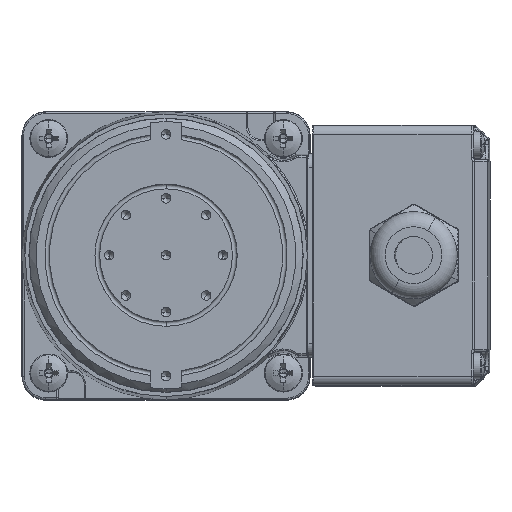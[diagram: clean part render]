
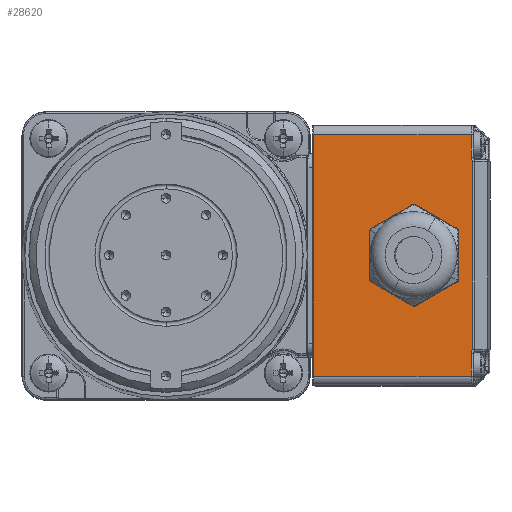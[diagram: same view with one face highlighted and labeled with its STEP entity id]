
A CAD part, top view. The second image highlights one B-rep face of the part: STEP entity #28620.
In plain terms, the highlighted planar face has unit normal (-0.009, 0, 1) as drawn and (0, 1, -0.008) by its records, which use the part's own axes.
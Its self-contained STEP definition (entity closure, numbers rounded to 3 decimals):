
#260 = CARTESIAN_POINT ( 'NONE',  ( -20.676, 51.11, 74.029 ) ) ;
#425 = CARTESIAN_POINT ( 'NONE',  ( -20.614, 51.11, 74.031 ) ) ;
#551 = CARTESIAN_POINT ( 'NONE',  ( 19.835, 51.113, 74.321 ) ) ;
#585 = CARTESIAN_POINT ( 'NONE',  ( -20.047, 51.112, 74.208 ) ) ;
#817 = LINE ( 'NONE', #6378, #12002 ) ;
#923 = CARTESIAN_POINT ( 'NONE',  ( -19.859, 51.113, 74.313 ) ) ;
#1030 = CARTESIAN_POINT ( 'NONE',  ( 0., 50.944, 53.779 ) ) ;
#1316 = CIRCLE ( 'NONE', #22391, 8.25 ) ;
#1979 = EDGE_CURVE ( 'NONE', #33081, #30453, #19196, .T. ) ;
#2938 = VECTOR ( 'NONE', #9091, 1000. ) ;
#3040 = CARTESIAN_POINT ( 'NONE',  ( -19.847, 51.113, 74.318 ) ) ;
#3169 = CARTESIAN_POINT ( 'NONE',  ( 20.107, 51.11, 74.175 ) ) ;
#3186 = LINE ( 'NONE', #27299, #2938 ) ;
#3414 = CARTESIAN_POINT ( 'NONE',  ( -20.701, 51.11, 74.029 ) ) ;
#3542 = VERTEX_POINT ( 'NONE', #29374 ) ;
#3544 = EDGE_CURVE ( 'NONE', #13116, #29733, #33682, .T. ) ;
#3546 = CARTESIAN_POINT ( 'NONE',  ( 0., 51.012, 62.029 ) ) ;
#4795 = EDGE_CURVE ( 'NONE', #29733, #16204, #29015, .T. ) ;
#4810 = ORIENTED_EDGE ( 'NONE', *, *, #9166, .T. ) ;
#5808 = CARTESIAN_POINT ( 'NONE',  ( -20.008, 51.112, 74.229 ) ) ;
#6378 = CARTESIAN_POINT ( 'NONE',  ( -25.5, 51.11, 74.029 ) ) ;
#6863 = ORIENTED_EDGE ( 'NONE', *, *, #24536, .F. ) ;
#7210 = DIRECTION ( 'NONE',  ( -1., 0., 0. ) ) ;
#7592 = EDGE_LOOP ( 'NONE', ( #4810, #28961, #27929, #7624, #31006, #18308, #17505, #6863 ) ) ;
#7618 = VERTEX_POINT ( 'NONE', #14731 ) ;
#7624 = ORIENTED_EDGE ( 'NONE', *, *, #14122, .F. ) ;
#7972 = PLANE ( 'NONE',  #16071 ) ;
#8250 = CARTESIAN_POINT ( 'NONE',  ( -20.701, 51.11, 74.029 ) ) ;
#8307 = EDGE_CURVE ( 'NONE', #3542, #30532, #3186, .T. ) ;
#8559 = CARTESIAN_POINT ( 'NONE',  ( 20.543, 51.109, 74.037 ) ) ;
#8753 = CARTESIAN_POINT ( 'NONE',  ( -19.875, 51.113, 74.305 ) ) ;
#8918 = DIRECTION ( 'NONE',  ( 0., 1., -0.008 ) ) ;
#9091 = DIRECTION ( 'NONE',  ( 1., 0., 0. ) ) ;
#9166 = EDGE_CURVE ( 'NONE', #12945, #30532, #30302, .T. ) ;
#9180 = VECTOR ( 'NONE', #11743, 1000. ) ;
#9714 = CARTESIAN_POINT ( 'NONE',  ( 25.5, 50.837, 40.73 ) ) ;
#10098 = CARTESIAN_POINT ( 'NONE',  ( 19.835, 51.113, 74.321 ) ) ;
#10612 = DIRECTION ( 'NONE',  ( -1., 0., 0. ) ) ;
#11188 = CARTESIAN_POINT ( 'NONE',  ( -20.339, 51.111, 74.083 ) ) ;
#11743 = DIRECTION ( 'NONE',  ( -1., 0., 0. ) ) ;
#11983 = AXIS2_PLACEMENT_3D ( 'NONE', #3546, #8918, #22111 ) ;
#12002 = VECTOR ( 'NONE', #14539, 1000. ) ;
#12421 = EDGE_CURVE ( 'NONE', #30453, #33081, #1316, .T. ) ;
#12722 = CARTESIAN_POINT ( 'NONE',  ( -19.835, 51.113, 74.321 ) ) ;
#12836 = ORIENTED_EDGE ( 'NONE', *, *, #12421, .F. ) ;
#12945 = VERTEX_POINT ( 'NONE', #34214 ) ;
#13116 = VERTEX_POINT ( 'NONE', #18961 ) ;
#13461 = CARTESIAN_POINT ( 'NONE',  ( -20.264, 51.111, 74.108 ) ) ;
#13645 = CARTESIAN_POINT ( 'NONE',  ( -19.918, 51.112, 74.281 ) ) ;
#13775 = CARTESIAN_POINT ( 'NONE',  ( 19.971, 51.111, 74.249 ) ) ;
#14122 = EDGE_CURVE ( 'NONE', #7618, #31529, #27178, .T. ) ;
#14539 = DIRECTION ( 'NONE',  ( 0., -0.008, -1. ) ) ;
#14551 = CARTESIAN_POINT ( 'NONE',  ( 19.835, 51.113, 74.321 ) ) ;
#14731 = CARTESIAN_POINT ( 'NONE',  ( -20.701, 51.11, 74.029 ) ) ;
#16017 = CARTESIAN_POINT ( 'NONE',  ( 20.701, 51.11, 74.029 ) ) ;
#16071 = AXIS2_PLACEMENT_3D ( 'NONE', #18555, #24770, #27376 ) ;
#16204 = VERTEX_POINT ( 'NONE', #12722 ) ;
#16921 = EDGE_CURVE ( 'NONE', #16204, #7618, #26016, .T. ) ;
#17091 = CARTESIAN_POINT ( 'NONE',  ( 25.5, 51.11, 74.029 ) ) ;
#17505 = ORIENTED_EDGE ( 'NONE', *, *, #3544, .F. ) ;
#18308 = ORIENTED_EDGE ( 'NONE', *, *, #4795, .F. ) ;
#18555 = CARTESIAN_POINT ( 'NONE',  ( 27.5, 50.835, 40.53 ) ) ;
#18837 = CARTESIAN_POINT ( 'NONE',  ( -19.895, 51.112, 74.294 ) ) ;
#18961 = CARTESIAN_POINT ( 'NONE',  ( 20.701, 51.11, 74.029 ) ) ;
#18971 = CARTESIAN_POINT ( 'NONE',  ( 20.319, 51.109, 74.087 ) ) ;
#19196 = CIRCLE ( 'NONE', #11983, 8.25 ) ;
#19507 = CARTESIAN_POINT ( 'NONE',  ( -20.091, 51.112, 74.184 ) ) ;
#20836 = CARTESIAN_POINT ( 'NONE',  ( 0., 51.012, 62.029 ) ) ;
#21054 = CARTESIAN_POINT ( 'NONE',  ( 20.392, 51.109, 74.064 ) ) ;
#21143 = FACE_OUTER_BOUND ( 'NONE', #7592, .T. ) ;
#21571 = CARTESIAN_POINT ( 'NONE',  ( 20.622, 51.109, 74.032 ) ) ;
#22111 = DIRECTION ( 'NONE',  ( 0., 0.008, 1. ) ) ;
#22391 = AXIS2_PLACEMENT_3D ( 'NONE', #20836, #28099, #26022 ) ;
#23186 = LINE ( 'NONE', #33586, #26272 ) ;
#23663 = CARTESIAN_POINT ( 'NONE',  ( 19.905, 51.111, 74.292 ) ) ;
#24045 = CARTESIAN_POINT ( 'NONE',  ( -20.521, 51.11, 74.041 ) ) ;
#24216 = CARTESIAN_POINT ( 'NONE',  ( -20.425, 51.111, 74.06 ) ) ;
#24377 = CARTESIAN_POINT ( 'NONE',  ( -19.835, 51.113, 74.321 ) ) ;
#24536 = EDGE_CURVE ( 'NONE', #12945, #13116, #23186, .T. ) ;
#24545 = CARTESIAN_POINT ( 'NONE',  ( -20.198, 51.111, 74.134 ) ) ;
#24715 = CARTESIAN_POINT ( 'NONE',  ( -19.835, 51.113, 74.321 ) ) ;
#24770 = DIRECTION ( 'NONE',  ( 0., 1., -0.008 ) ) ;
#25362 = EDGE_LOOP ( 'NONE', ( #29428, #12836 ) ) ;
#25759 = VECTOR ( 'NONE', #10612, 1000. ) ;
#26016 =( BOUNDED_CURVE ( )  B_SPLINE_CURVE ( 3, ( #27485, #24715, #27136, #24377, #26806, #3040, #923, #8753, #18837, #13645, #32678, #27312, #5808, #585, #19507, #29755, #24545, #13461, #11188, #24216, #24045, #425, #260, #8250 ),
 .UNSPECIFIED., .F., .F. ) 
 B_SPLINE_CURVE_WITH_KNOTS ( ( 4, 1, 1, 1, 1, 1, 1, 1, 1, 1, 1, 1, 1, 1, 1, 1, 1, 1, 1, 1, 1, 4 ),
 ( 0., 0., 0.03, 0.059, 0.087, 0.114, 0.143, 0.172, 0.204, 0.238, 0.275, 0.316, 0.36, 0.408, 0.462, 0.521, 0.588, 0.661, 0.743, 0.833, 0.932, 1. ),
 .UNSPECIFIED. ) 
 CURVE ( )  GEOMETRIC_REPRESENTATION_ITEM ( )  RATIONAL_B_SPLINE_CURVE ( ( 1.172, 1.172, 1.172, 1.172, 1.172, 1.172, 1.172, 1.172, 1.172, 1.172, 1.172, 1.172, 1.172, 1.172, 1.172, 1.172, 1.172, 1.172, 1.172, 1.172, 1.172, 1.172, 1.172, 1.172 ) ) 
 REPRESENTATION_ITEM ( '' )  );
#26022 = DIRECTION ( 'NONE',  ( 0., -0.008, -1. ) ) ;
#26272 = VECTOR ( 'NONE', #7210, 1000. ) ;
#26806 = CARTESIAN_POINT ( 'NONE',  ( -19.838, 51.113, 74.321 ) ) ;
#27136 = CARTESIAN_POINT ( 'NONE',  ( -19.835, 51.113, 74.321 ) ) ;
#27178 = LINE ( 'NONE', #3414, #9180 ) ;
#27299 = CARTESIAN_POINT ( 'NONE',  ( -25.5, 50.837, 40.73 ) ) ;
#27312 = CARTESIAN_POINT ( 'NONE',  ( -19.974, 51.112, 74.249 ) ) ;
#27337 = EDGE_CURVE ( 'NONE', #31529, #3542, #817, .T. ) ;
#27376 = DIRECTION ( 'NONE',  ( -1., 0., 0. ) ) ;
#27386 = VECTOR ( 'NONE', #27673, 1000. ) ;
#27485 = CARTESIAN_POINT ( 'NONE',  ( -19.835, 51.113, 74.321 ) ) ;
#27673 = DIRECTION ( 'NONE',  ( 0., -0.008, -1. ) ) ;
#27929 = ORIENTED_EDGE ( 'NONE', *, *, #27337, .F. ) ;
#28099 = DIRECTION ( 'NONE',  ( 0., 1., -0.008 ) ) ;
#28620 = ADVANCED_FACE ( 'NONE', ( #21143, #31739 ), #7972, .T. ) ;
#28961 = ORIENTED_EDGE ( 'NONE', *, *, #8307, .F. ) ;
#29015 = LINE ( 'NONE', #10098, #25759 ) ;
#29374 = CARTESIAN_POINT ( 'NONE',  ( -25.5, 50.837, 40.73 ) ) ;
#29392 = CARTESIAN_POINT ( 'NONE',  ( -25.5, 51.11, 74.029 ) ) ;
#29428 = ORIENTED_EDGE ( 'NONE', *, *, #1979, .F. ) ;
#29552 = CARTESIAN_POINT ( 'NONE',  ( 20.177, 51.11, 74.142 ) ) ;
#29733 = VERTEX_POINT ( 'NONE', #14551 ) ;
#29755 = CARTESIAN_POINT ( 'NONE',  ( -20.141, 51.111, 74.16 ) ) ;
#30302 = LINE ( 'NONE', #17091, #27386 ) ;
#30453 = VERTEX_POINT ( 'NONE', #1030 ) ;
#30532 = VERTEX_POINT ( 'NONE', #9714 ) ;
#31006 = ORIENTED_EDGE ( 'NONE', *, *, #16921, .F. ) ;
#31529 = VERTEX_POINT ( 'NONE', #29392 ) ;
#31739 = FACE_BOUND ( 'NONE', #25362, .T. ) ;
#32678 = CARTESIAN_POINT ( 'NONE',  ( -19.944, 51.112, 74.266 ) ) ;
#32893 = CARTESIAN_POINT ( 'NONE',  ( 0., 51.079, 70.279 ) ) ;
#33081 = VERTEX_POINT ( 'NONE', #32893 ) ;
#33586 = CARTESIAN_POINT ( 'NONE',  ( 25.5, 51.11, 74.029 ) ) ;
#33682 = B_SPLINE_CURVE_WITH_KNOTS ( 'NONE', 3,
 ( #16017, #21571, #8559, #21054, #18971, #29552, #3169, #13775, #23663, #551 ),
 .UNSPECIFIED., .F., .F.,
 ( 4, 2, 2, 2, 4 ),
 ( 0., 0.25, 0.5, 0.75, 1. ),
 .UNSPECIFIED. ) ;
#34214 = CARTESIAN_POINT ( 'NONE',  ( 25.5, 51.11, 74.029 ) ) ;
